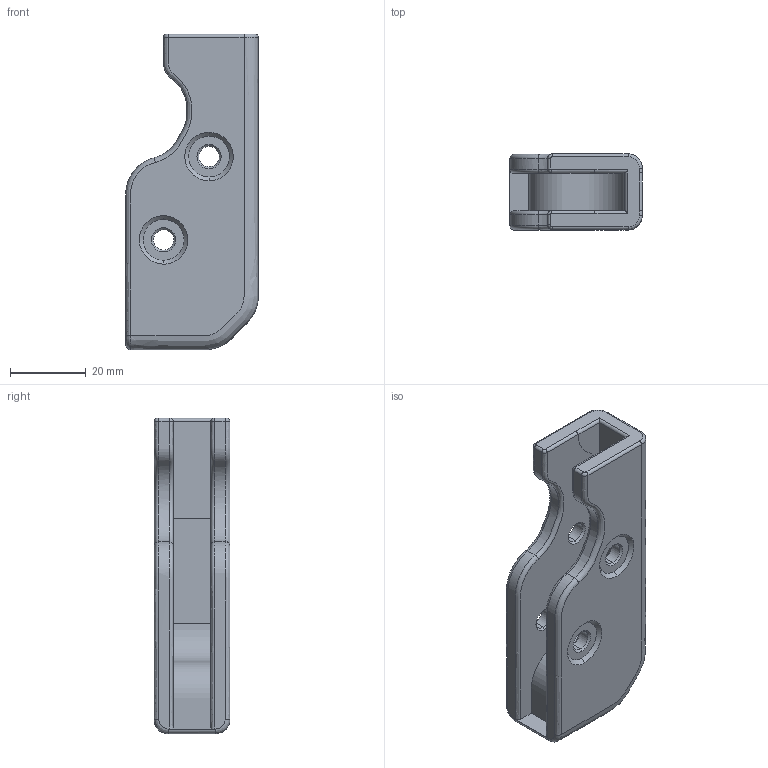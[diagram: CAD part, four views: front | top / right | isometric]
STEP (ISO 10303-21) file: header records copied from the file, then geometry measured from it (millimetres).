
FILE_DESCRIPTION(/* description */ (''),/* implementation_level */ '2;1');
FILE_NAME(/* name */ 'Tetrapod Femur ReDo V8',/* time_stamp */ '2025-05-17T14:34:51-04:00',/* author */ (''),/* organization */ (''),/* preprocessor_version */ 'ST-DEVELOPER v19.2',/* originating_system */ 'Rhino 8.19',/* authorisation */ '');
FILE_SCHEMA (('CONFIG_CONTROL_DESIGN'));
Length unit declared in the file: millimetre
Products named in the file (1): Document
Bounding box: 35 x 20 x 83.35 mm (x, y, z)
Volume: 30140.5 mm3; surface area: 12773.5 mm2
Topology: 1 solids, 1 shells, 110 faces, 251 edges, 148 vertices
Faces by surface type: bspline 52, plane 35, cylinder 23
Entity records: 4722 total; most frequent: CARTESIAN_POINT 2793, ORIENTED_EDGE 502, EDGE_CURVE 251, DIRECTION 176, VERTEX_POINT 148, EDGE_LOOP 123, AXIS2_PLACEMENT_3D 117, B_SPLINE_CURVE_WITH_KNOTS 113
